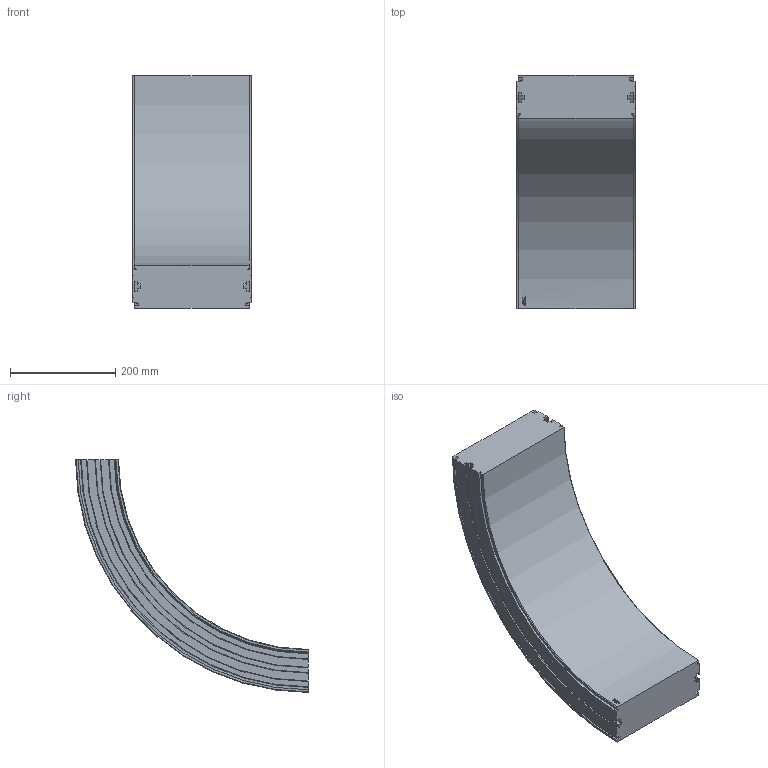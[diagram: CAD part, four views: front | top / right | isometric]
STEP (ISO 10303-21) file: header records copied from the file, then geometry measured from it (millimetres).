
FILE_DESCRIPTION(/* description */ ('VERTIKALKURVA S220 R400'),/* implementation_level */ '2;1');
FILE_NAME(/* name */ '\\carryline.intra\privat\users\mathias\Desktop\Tillfälliga filer\220-5645+220-2000-UPP-01.stp',/* time_stamp */ '2018-11-29T14:28:45+01:00',/* author */ ('MD'),/* organization */ ('CARRYLINE'),/* preprocessor_version */ 'ST-DEVELOPER v17',/* originating_system */ 'Autodesk Inventor 2018',/* authorisation */ '');
FILE_SCHEMA (('AUTOMOTIVE_DESIGN { 1 0 10303 214 3 1 1 }'));
Length unit declared in the file: millimetre
Products named in the file (1): 220-5645+220-2000-UPP-01
Bounding box: 224 x 442 x 442 mm (x, y, z)
Volume: 11149632.8 mm3; surface area: 510788.6 mm2
Topology: 1 solids, 1 shells, 113 faces, 318 edges, 212 vertices
Faces by surface type: plane 48, cylinder 31, bspline 14, cone 14, torus 6
Entity records: 8361 total; most frequent: CARTESIAN_POINT 5393, ORIENTED_EDGE 636, DIRECTION 576, EDGE_CURVE 318, VERTEX_POINT 212, AXIS2_PLACEMENT_3D 199, LINE 178, VECTOR 178
